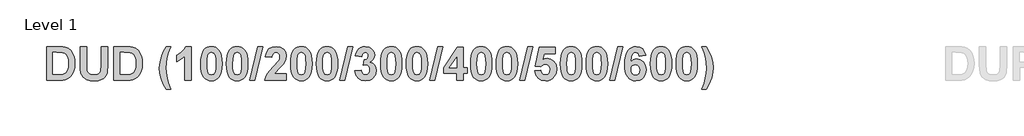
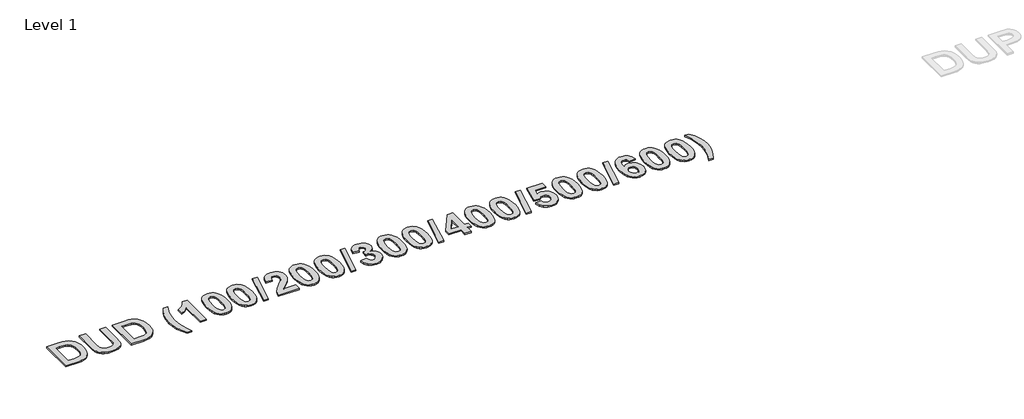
# One storey, part 29 of 42: 1 proxy.
"""IFC4 building model written with IfcOpenShell, lengths in millimetres."""

from ifc_helpers import new_model, si_unit, origin, origin_with_axes, place, context, project, spatial, polyline, outline, extrude, element, save

model = new_model("IFC4")

# Units and contexts
model_context = context("Model", 3, world=origin())
ifc_project = project(units=[si_unit("LENGTHUNIT", "METRE", prefix="MILLI")], contexts=[model_context])

# Site, building, storey
site = spatial("IfcSite", under=ifc_project)
building = spatial("IfcBuilding", under=site)
storey = spatial("IfcBuildingStorey", under=building, Name="Level 1", Elevation=0.0)

# Proxy
placement = place(None, origin())
element("IfcBuildingElementProxy", 1, Name="300mm Arial 2", ObjectType="300mm Arial 2", at=placement, inside=storey, context=model_context, shape_type="SweptSolid", body=[
    extrude(outline(polyline([(13206.8730509, 14842.68636), (13301.3204272, 14842.68636), (13329.4711857, 14841.4686025), (13350.0307284, 14837.8153299), (13370.9382018, 14828.6188883), (13388.6194086, 14814.314191), (13402.7659555, 14795.5575621), (13413.0694494, 14773.0053252), (13419.3559249, 14745.700671), (13421.4514168, 14712.6867899), (13419.4903527, 14683.397349), (13413.6071605, 14658.4095971), (13401.9356662, 14633.2320648), (13386.1522634, 14613.3683835), (13370.3688606, 14601.7601494), (13349.840948, 14592.9986212), (13329.8665615, 14588.9657878), (13304.103873, 14587.62151), (13206.8730509, 14587.62151), (13206.8730509, 14842.68636)]), holes=[polyline([(13255.4568319, 14798.1512275), (13255.4568319, 14632.1566425), (13296.8289578, 14632.1566425), (13330.3568275, 14634.5605275), (13352.719284, 14644.9668192), (13360.7928582, 14654.7009719), (13367.2374841, 14669.1638194), (13371.4600979, 14689.0591308), (13372.8676358, 14715.0906749), (13371.4600979, 14740.7584732), (13367.2374841, 14759.6890675), (13360.4923726, 14773.5430363), (13351.5173415, 14783.980958), (13340.0593502, 14791.2875032), (13325.8653582, 14795.7473425), (13280.3813237, 14798.1512275), (13255.4568319, 14798.1512275)])]), origin_with_axes(), (0.0, 0.0, 1.0), 10.0),
    extrude(outline(polyline([(13461.9379009, 14842.68636), (13510.5216819, 14842.68636), (13510.5216819, 14705.0955741), (13512.6092662, 14662.5847658), (13518.6980538, 14648.5489241), (13529.7527618, 14637.5653838), (13545.7733901, 14630.4723415), (13566.7599387, 14628.1079941), (13587.7227648, 14630.3379138), (13602.7865836, 14637.0276727), (13612.4891062, 14646.9674208), (13617.3680439, 14658.9473082), (13619.835189, 14702.1223479), (13619.835189, 14842.68636), (13668.4189699, 14842.68636), (13668.4189699, 14708.891182), (13664.1805411, 14644.0495473), (13658.1550136, 14626.5976585), (13648.5552887, 14612.0715508), (13635.2469385, 14600.3447039), (13618.0955354, 14591.2905976), (13596.1047322, 14585.5022956), (13568.2781819, 14583.5728616), (13535.6833991, 14585.676261), (13512.039925, 14591.9864591), (13494.8806144, 14601.6652592), (13481.7383221, 14613.8744646), (13472.5023429, 14627.6809882), (13467.0619716, 14642.1517433), (13463.2189186, 14669.2587096), (13461.9379009, 14706.8035977), (13461.9379009, 14842.68636)])), origin_with_axes(), (0.0, 0.0, 1.0), 10.0),
    extrude(outline(polyline([(13717.0027509, 14842.68636), (13811.4501271, 14842.68636), (13839.6008856, 14841.4686025), (13860.1604284, 14837.8153299), (13881.0679018, 14828.6188883), (13898.7491085, 14814.314191), (13912.8956554, 14795.5575621), (13923.1991493, 14773.0053252), (13929.4856249, 14745.700671), (13931.5811168, 14712.6867899), (13929.6200527, 14683.397349), (13923.7368605, 14658.4095971), (13912.0653662, 14633.2320648), (13896.2819634, 14613.3683835), (13880.4985606, 14601.7601494), (13859.970648, 14592.9986212), (13839.9962615, 14588.9657878), (13814.2335729, 14587.62151), (13717.0027509, 14587.62151), (13717.0027509, 14842.68636)]), holes=[polyline([(13765.5865318, 14798.1512275), (13765.5865318, 14632.1566425), (13806.9586578, 14632.1566425), (13840.4865275, 14634.5605275), (13862.8489839, 14644.9668192), (13870.9225582, 14654.7009719), (13877.3671841, 14669.1638194), (13881.5897979, 14689.0591308), (13882.9973358, 14715.0906749), (13881.5897979, 14740.7584732), (13877.3671841, 14759.6890675), (13870.6220726, 14773.5430363), (13861.6470414, 14783.980958), (13850.1890501, 14791.2875032), (13835.9950581, 14795.7473425), (13790.5110236, 14798.1512275), (13765.5865318, 14798.1512275)])]), origin_with_axes(), (0.0, 0.0, 1.0), 10.0),
    extrude(outline(polyline([(14146.1594826, 14518.794487), (14113.7702953, 14518.794487), (14091.0994457, 14558.4664969), (14074.5806439, 14599.6725651), (14064.4985604, 14640.9735234), (14061.137866, 14680.9302039), (14065.2497745, 14728.3278574), (14077.5855001, 14773.1002154), (14093.7800938, 14809.3799008), (14113.7702953, 14842.68636), (14146.1594826, 14842.68636), (14128.5968886, 14795.4468568), (14117.5342731, 14755.8301995), (14111.6748035, 14718.9495429), (14109.7216469, 14679.9180418), (14114.4028966, 14623.2685941), (14127.2447033, 14568.2006497), (14146.1594826, 14518.794487)])), origin_with_axes(), (0.0, 0.0, 1.0), 10.0),
    extrude(outline(polyline([(14300.0081223, 14587.62151), (14251.4243414, 14587.62151), (14251.4243414, 14769.9372088), (14223.3684731, 14746.0565092), (14190.6946152, 14729.3242045), (14190.6946152, 14777.9079854), (14210.1629206, 14786.9937218), (14231.2443594, 14801.7254249), (14249.7005028, 14820.7430019), (14261.2929219, 14842.68636), (14300.0081223, 14842.68636), (14300.0081223, 14587.62151)])), origin_with_axes(), (0.0, 0.0, 1.0), 10.0),
    extrude(outline(polyline([(14453.856762, 14842.68636), (14470.9883963, 14841.0415966), (14486.135244, 14836.1073063), (14499.2973051, 14827.8834892), (14510.4745796, 14816.3701453), (14521.129958, 14798.2421639), (14528.7409426, 14774.9822043), (14533.3075333, 14746.5902666), (14534.8297302, 14713.0663507), (14533.2996258, 14679.5740648), (14528.7093125, 14651.150497), (14521.0587904, 14627.7956472), (14510.3480594, 14609.5095155), (14499.2261375, 14598.1622294), (14486.103614, 14590.0570251), (14470.9804888, 14585.1939025), (14453.856762, 14583.5728616), (14436.5491854, 14585.3520528), (14421.0010312, 14590.6896264), (14407.2122994, 14599.5855824), (14395.1829901, 14612.0399207), (14385.4270917, 14629.0608499), (14378.4585928, 14651.6565781), (14374.2774935, 14679.8271054), (14372.8837937, 14713.5724317), (14374.4138982, 14746.8986597), (14379.0042114, 14775.2036148), (14386.6547336, 14798.4872969), (14397.3654646, 14816.7497061), (14408.4873865, 14828.0969922), (14421.60991, 14836.2021965), (14436.7330351, 14841.0653191), (14453.856762, 14842.68636)]), holes=[polyline([(14453.856762, 14798.1512275), (14437.6621683, 14792.8057464), (14431.3361552, 14785.3331433), (14426.6549055, 14773.6062965), (14422.7644074, 14749.4567413), (14421.4675747, 14713.0663507), (14422.6220721, 14677.1583186), (14426.0855643, 14654.5823591), (14431.3124326, 14641.3293616), (14437.7570585, 14633.3902151), (14453.856762, 14628.1079941), (14470.0513556, 14633.4534752), (14476.3773688, 14640.9260783), (14481.0586185, 14652.6529251), (14484.9491166, 14676.6759601), (14486.2459493, 14713.0663507), (14485.0914519, 14748.9348452), (14481.6279597, 14771.5187121), (14476.4010913, 14784.8112472), (14469.9564654, 14792.8057464), (14453.856762, 14798.1512275)])]), origin_with_axes(), (0.0, 0.0, 1.0), 10.0),
    extrude(outline(polyline([(14648.1918858, 14842.68636), (14665.3235201, 14841.0415966), (14680.4703678, 14836.1073063), (14693.6324289, 14827.8834892), (14704.8097034, 14816.3701453), (14715.4650818, 14798.2421639), (14723.0760664, 14774.9822043), (14727.6426571, 14746.5902666), (14729.164854, 14713.0663507), (14727.6347496, 14679.5740648), (14723.0444363, 14651.150497), (14715.3939142, 14627.7956472), (14704.6831832, 14609.5095155), (14693.5612613, 14598.1622294), (14680.4387378, 14590.0570251), (14665.3156126, 14585.1939025), (14648.1918858, 14583.5728616), (14630.8843092, 14585.3520528), (14615.336155, 14590.6896264), (14601.5474232, 14599.5855824), (14589.5181139, 14612.0399207), (14579.7622155, 14629.0608499), (14572.7937166, 14651.6565781), (14568.6126173, 14679.8271054), (14567.2189175, 14713.5724317), (14568.749022, 14746.8986597), (14573.3393352, 14775.2036148), (14580.9898574, 14798.4872969), (14591.7005884, 14816.7497061), (14602.8225103, 14828.0969922), (14615.9450338, 14836.2021965), (14631.0681589, 14841.0653191), (14648.1918858, 14842.68636)]), holes=[polyline([(14648.1918858, 14798.1512275), (14631.9972921, 14792.8057464), (14625.671279, 14785.3331433), (14620.9900293, 14773.6062965), (14617.0995312, 14749.4567413), (14615.8026985, 14713.0663507), (14616.9571959, 14677.1583186), (14620.4206881, 14654.5823591), (14625.6475564, 14641.3293616), (14632.0921823, 14633.3902151), (14648.1918858, 14628.1079941), (14664.3864794, 14633.4534752), (14670.7124926, 14640.9260783), (14675.3937423, 14652.6529251), (14679.2842404, 14676.6759601), (14680.5810731, 14713.0663507), (14679.4265757, 14748.9348452), (14675.9630835, 14771.5187121), (14670.7362151, 14784.8112472), (14664.2915892, 14792.8057464), (14648.1918858, 14798.1512275)])]), origin_with_axes(), (0.0, 0.0, 1.0), 10.0),
    extrude(outline(polyline([(14744.4738058, 14587.62151), (14805.203532, 14842.68636), (14842.5270096, 14842.68636), (14781.7972834, 14587.62151), (14744.4738058, 14587.62151)])), origin_with_axes(), (0.0, 0.0, 1.0), 10.0),
    extrude(outline(polyline([(15020.6675397, 14636.205291), (15020.6675397, 14587.62151), (14858.7216032, 14587.62151), (14863.893119, 14612.1269034), (14874.2203354, 14635.2880191), (14893.4039703, 14661.469806), (14925.1447412, 14695.0372132), (14962.7212593, 14735.7767379), (14969.7431339, 14750.4847184), (14972.0837588, 14765.0029186), (14970.1147872, 14779.1494655), (14964.2078724, 14789.5794797), (14954.8374654, 14796.0082905), (14942.4780173, 14798.1512275), (14930.2055518, 14796.0399206), (14920.716532, 14789.7059999), (14914.3272588, 14778.4852341), (14911.3540326, 14761.7133918), (14862.7702516, 14766.141601), (14871.3736295, 14801.2905115), (14878.9964754, 14814.5296709), (14888.8334258, 14824.878633), (14913.457432, 14838.2344283), (14943.5534395, 14842.68636), (14975.6895863, 14837.6967171), (15000.107997, 14822.7277885), (15015.5276541, 14800.3416095), (15020.6675397, 14773.1002154), (15015.037388, 14740.9640686), (14997.198031, 14709.0177023), (14966.9913182, 14677.134596), (14939.2517506, 14649.4899186), (14930.1422916, 14636.205291), (15020.6675397, 14636.205291)])), origin_with_axes(), (0.0, 0.0, 1.0), 10.0),
    extrude(outline(polyline([(15134.0296953, 14842.68636), (15151.1613296, 14841.0415966), (15166.3081774, 14836.1073063), (15179.4702385, 14827.8834892), (15190.6475129, 14816.3701453), (15201.3028913, 14798.2421639), (15208.9138759, 14774.9822043), (15213.4804666, 14746.5902666), (15215.0026635, 14713.0663507), (15213.4725591, 14679.5740648), (15208.8822458, 14651.150497), (15201.2317237, 14627.7956472), (15190.5209927, 14609.5095155), (15179.3990708, 14598.1622294), (15166.2765473, 14590.0570251), (15151.1534221, 14585.1939025), (15134.0296953, 14583.5728616), (15116.7221187, 14585.3520528), (15101.1739645, 14590.6896264), (15087.3852327, 14599.5855824), (15075.3559234, 14612.0399207), (15065.600025, 14629.0608499), (15058.6315261, 14651.6565781), (15054.4504268, 14679.8271054), (15053.056727, 14713.5724317), (15054.5868315, 14746.8986597), (15059.1771447, 14775.2036148), (15066.8276669, 14798.4872969), (15077.5383979, 14816.7497061), (15088.6603198, 14828.0969922), (15101.7828433, 14836.2021965), (15116.9059685, 14841.0653191), (15134.0296953, 14842.68636)]), holes=[polyline([(15134.0296953, 14798.1512275), (15117.8351016, 14792.8057464), (15111.5090885, 14785.3331433), (15106.8278388, 14773.6062965), (15102.9373407, 14749.4567413), (15101.640508, 14713.0663507), (15102.7950054, 14677.1583186), (15106.2584976, 14654.5823591), (15111.4853659, 14641.3293616), (15117.9299918, 14633.3902151), (15134.0296953, 14628.1079941), (15150.2242889, 14633.4534752), (15156.5503021, 14640.9260783), (15161.2315518, 14652.6529251), (15165.1220499, 14676.6759601), (15166.4188826, 14713.0663507), (15165.2643852, 14748.9348452), (15161.800893, 14771.5187121), (15156.5740246, 14784.8112472), (15150.1293987, 14792.8057464), (15134.0296953, 14798.1512275)])]), origin_with_axes(), (0.0, 0.0, 1.0), 10.0),
    extrude(outline(polyline([(15328.3648191, 14842.68636), (15345.4964534, 14841.0415966), (15360.6433012, 14836.1073063), (15373.8053623, 14827.8834892), (15384.9826367, 14816.3701453), (15395.6380151, 14798.2421639), (15403.2489997, 14774.9822043), (15407.8155904, 14746.5902666), (15409.3377873, 14713.0663507), (15407.8076829, 14679.5740648), (15403.2173696, 14651.150497), (15395.5668475, 14627.7956472), (15384.8561165, 14609.5095155), (15373.7341946, 14598.1622294), (15360.6116711, 14590.0570251), (15345.4885459, 14585.1939025), (15328.3648191, 14583.5728616), (15311.0572425, 14585.3520528), (15295.5090883, 14590.6896264), (15281.7203565, 14599.5855824), (15269.6910472, 14612.0399207), (15259.9351488, 14629.0608499), (15252.9666499, 14651.6565781), (15248.7855506, 14679.8271054), (15247.3918508, 14713.5724317), (15248.9219553, 14746.8986597), (15253.5122686, 14775.2036148), (15261.1627907, 14798.4872969), (15271.8735217, 14816.7497061), (15282.9954436, 14828.0969922), (15296.1179671, 14836.2021965), (15311.2410923, 14841.0653191), (15328.3648191, 14842.68636)]), holes=[polyline([(15328.3648191, 14798.1512275), (15312.1702254, 14792.8057464), (15305.8442123, 14785.3331433), (15301.1629626, 14773.6062965), (15297.2724645, 14749.4567413), (15295.9756318, 14713.0663507), (15297.1301292, 14677.1583186), (15300.5936214, 14654.5823591), (15305.8204897, 14641.3293616), (15312.2651156, 14633.3902151), (15328.3648191, 14628.1079941), (15344.5594127, 14633.4534752), (15350.8854259, 14640.9260783), (15355.5666756, 14652.6529251), (15359.4571737, 14676.6759601), (15360.7540064, 14713.0663507), (15359.599509, 14748.9348452), (15356.1360168, 14771.5187121), (15350.9091484, 14784.8112472), (15344.4645225, 14792.8057464), (15328.3648191, 14798.1512275)])]), origin_with_axes(), (0.0, 0.0, 1.0), 10.0),
    extrude(outline(polyline([(15424.6467391, 14587.62151), (15485.3764653, 14842.68636), (15522.6999429, 14842.68636), (15461.9702167, 14587.62151), (15424.6467391, 14587.62151)])), origin_with_axes(), (0.0, 0.0, 1.0), 10.0),
    extrude(outline(polyline([(15538.8945365, 14658.9156782), (15587.4783175, 14664.5458298), (15591.2264803, 14648.9205774), (15598.4223202, 14637.4704936), (15608.2750857, 14630.448619), (15619.994025, 14628.1079941), (15632.5669762, 14630.7886422), (15642.9574528, 14638.8305864), (15649.9318823, 14651.4114451), (15652.2566921, 14667.7088364), (15650.1295702, 14683.1284935), (15643.7482044, 14694.9739531), (15634.2987223, 14702.5177237), (15622.9672512, 14705.032314), (15603.6729111, 14701.4264865), (15607.9113399, 14741.4701497), (15621.7415862, 14743.2098033), (15631.8552997, 14749.4409262), (15638.0468851, 14759.3095068), (15640.1107468, 14771.961533), (15638.5687811, 14782.7078479), (15633.942884, 14791.0344627), (15626.7549516, 14796.3720363), (15617.5268799, 14798.1512275), (15608.1406579, 14796.0873657), (15600.225234, 14789.8957803), (15594.4606545, 14779.7346217), (15591.5269659, 14765.7620402), (15542.9431849, 14773.0369553), (15548.502169, 14794.7747179), (15556.3227027, 14811.6572655), (15567.045295, 14824.5702399), (15581.3104547, 14834.3992828), (15598.3037075, 14840.6145907), (15617.2105793, 14842.68636), (15647.860113, 14836.9455031), (15660.646567, 14829.7694319), (15671.7408126, 14819.7229323), (15684.456099, 14799.7011007), (15688.6945278, 14777.212124), (15686.4211168, 14761.2666171), (15679.6008839, 14747.0212262), (15668.233829, 14734.4759514), (15652.3199522, 14723.6307926), (15672.1836335, 14716.0791144), (15687.6191056, 14702.7865793), (15697.5351312, 14684.9234997), (15700.840473, 14663.660188), (15694.9810034, 14632.8920416), (15677.4025943, 14607.0107403), (15664.9660479, 14596.7566684), (15651.0942872, 14589.4323313), (15619.0451231, 14583.5728616), (15588.7830577, 14588.7839149), (15564.166959, 14604.4170749), (15546.9522958, 14628.4638324), (15538.8945365, 14658.9156782)])), origin_with_axes(), (0.0, 0.0, 1.0), 10.0),
    extrude(outline(polyline([(15814.2026286, 14842.68636), (15831.3342629, 14841.0415966), (15846.4811107, 14836.1073063), (15859.6431718, 14827.8834892), (15870.8204462, 14816.3701453), (15881.4758246, 14798.2421639), (15889.0868092, 14774.9822043), (15893.6533999, 14746.5902666), (15895.1755968, 14713.0663507), (15893.6454924, 14679.5740648), (15889.0551791, 14651.150497), (15881.404657, 14627.7956472), (15870.693926, 14609.5095155), (15859.5720041, 14598.1622294), (15846.4494806, 14590.0570251), (15831.3263554, 14585.1939025), (15814.2026286, 14583.5728616), (15796.895052, 14585.3520528), (15781.3468978, 14590.6896264), (15767.558166, 14599.5855824), (15755.5288567, 14612.0399207), (15745.7729583, 14629.0608499), (15738.8044594, 14651.6565781), (15734.6233601, 14679.8271054), (15733.2296603, 14713.5724317), (15734.7597648, 14746.8986597), (15739.3500781, 14775.2036148), (15747.0006002, 14798.4872969), (15757.7113312, 14816.7497061), (15768.8332531, 14828.0969922), (15781.9557766, 14836.2021965), (15797.0789018, 14841.0653191), (15814.2026286, 14842.68636)]), holes=[polyline([(15814.2026286, 14798.1512275), (15798.0080349, 14792.8057464), (15791.6820218, 14785.3331433), (15787.0007721, 14773.6062965), (15783.110274, 14749.4567413), (15781.8134413, 14713.0663507), (15782.9679387, 14677.1583186), (15786.4314309, 14654.5823591), (15791.6582992, 14641.3293616), (15798.1029251, 14633.3902151), (15814.2026286, 14628.1079941), (15830.3972222, 14633.4534752), (15836.7232354, 14640.9260783), (15841.4044851, 14652.6529251), (15845.2949832, 14676.6759601), (15846.5918159, 14713.0663507), (15845.4373185, 14748.9348452), (15841.9738263, 14771.5187121), (15836.7469579, 14784.8112472), (15830.302332, 14792.8057464), (15814.2026286, 14798.1512275)])]), origin_with_axes(), (0.0, 0.0, 1.0), 10.0),
    extrude(outline(polyline([(16008.5377524, 14842.68636), (16025.6693867, 14841.0415966), (16040.8162345, 14836.1073063), (16053.9782956, 14827.8834892), (16065.15557, 14816.3701453), (16075.8109484, 14798.2421639), (16083.421933, 14774.9822043), (16087.9885237, 14746.5902666), (16089.5107206, 14713.0663507), (16087.9806162, 14679.5740648), (16083.3903029, 14651.150497), (16075.7397808, 14627.7956472), (16065.0290498, 14609.5095155), (16053.9071279, 14598.1622294), (16040.7846044, 14590.0570251), (16025.6614792, 14585.1939025), (16008.5377524, 14583.5728616), (15991.2301758, 14585.3520528), (15975.6820216, 14590.6896264), (15961.8932898, 14599.5855824), (15949.8639805, 14612.0399207), (15940.1080821, 14629.0608499), (15933.1395832, 14651.6565781), (15928.9584839, 14679.8271054), (15927.5647841, 14713.5724317), (15929.0948886, 14746.8986597), (15933.6852019, 14775.2036148), (15941.335724, 14798.4872969), (15952.046455, 14816.7497061), (15963.1683769, 14828.0969922), (15976.2909004, 14836.2021965), (15991.4140256, 14841.0653191), (16008.5377524, 14842.68636)]), holes=[polyline([(16008.5377524, 14798.1512275), (15992.3431587, 14792.8057464), (15986.0171456, 14785.3331433), (15981.3358959, 14773.6062965), (15977.4453978, 14749.4567413), (15976.1485651, 14713.0663507), (15977.3030625, 14677.1583186), (15980.7665547, 14654.5823591), (15985.993423, 14641.3293616), (15992.4380489, 14633.3902151), (16008.5377524, 14628.1079941), (16024.732346, 14633.4534752), (16031.0583592, 14640.9260783), (16035.7396089, 14652.6529251), (16039.630107, 14676.6759601), (16040.9269397, 14713.0663507), (16039.7724423, 14748.9348452), (16036.3089501, 14771.5187121), (16031.0820817, 14784.8112472), (16024.6374558, 14792.8057464), (16008.5377524, 14798.1512275)])]), origin_with_axes(), (0.0, 0.0, 1.0), 10.0),
    extrude(outline(polyline([(16104.8196724, 14587.62151), (16165.5493986, 14842.68636), (16202.8728762, 14842.68636), (16142.14315, 14587.62151), (16104.8196724, 14587.62151)])), origin_with_axes(), (0.0, 0.0, 1.0), 10.0),
    extrude(outline(polyline([(16308.1377349, 14587.62151), (16308.1377349, 14640.2539394), (16210.970173, 14640.2539394), (16210.970173, 14680.5506431), (16314.5902683, 14838.6377116), (16356.7215159, 14838.6377116), (16356.7215159, 14680.7404235), (16389.1107032, 14680.7404235), (16389.1107032, 14640.2539394), (16356.7215159, 14640.2539394), (16356.7215159, 14587.62151), (16308.1377349, 14587.62151)]), holes=[polyline([(16308.1377349, 14680.7404235), (16308.1377349, 14763.6111957), (16253.8605421, 14680.7404235), (16308.1377349, 14680.7404235)])]), origin_with_axes(), (0.0, 0.0, 1.0), 10.0),
    extrude(outline(polyline([(16494.3755619, 14842.68636), (16511.5071962, 14841.0415966), (16526.654044, 14836.1073063), (16539.8161051, 14827.8834892), (16550.9933795, 14816.3701453), (16561.6487579, 14798.2421639), (16569.2597425, 14774.9822043), (16573.8263332, 14746.5902666), (16575.3485301, 14713.0663507), (16573.8184257, 14679.5740648), (16569.2281124, 14651.150497), (16561.5775903, 14627.7956472), (16550.8668593, 14609.5095155), (16539.7449374, 14598.1622294), (16526.6224139, 14590.0570251), (16511.4992887, 14585.1939025), (16494.3755619, 14583.5728616), (16477.0679853, 14585.3520528), (16461.5198311, 14590.6896264), (16447.7310993, 14599.5855824), (16435.70179, 14612.0399207), (16425.9458916, 14629.0608499), (16418.9773927, 14651.6565781), (16414.7962934, 14679.8271054), (16413.4025936, 14713.5724317), (16414.9326981, 14746.8986597), (16419.5230114, 14775.2036148), (16427.1735335, 14798.4872969), (16437.8842645, 14816.7497061), (16449.0061864, 14828.0969922), (16462.1287099, 14836.2021965), (16477.2518351, 14841.0653191), (16494.3755619, 14842.68636)]), holes=[polyline([(16494.3755619, 14798.1512275), (16478.1809682, 14792.8057464), (16471.8549551, 14785.3331433), (16467.1737054, 14773.6062965), (16463.2832073, 14749.4567413), (16461.9863746, 14713.0663507), (16463.140872, 14677.1583186), (16466.6043642, 14654.5823591), (16471.8312325, 14641.3293616), (16478.2758584, 14633.3902151), (16494.3755619, 14628.1079941), (16510.5701555, 14633.4534752), (16516.8961687, 14640.9260783), (16521.5774184, 14652.6529251), (16525.4679165, 14676.6759601), (16526.7647492, 14713.0663507), (16525.6102518, 14748.9348452), (16522.1467596, 14771.5187121), (16516.9198912, 14784.8112472), (16510.4752653, 14792.8057464), (16494.3755619, 14798.1512275)])]), origin_with_axes(), (0.0, 0.0, 1.0), 10.0),
    extrude(outline(polyline([(16688.7106857, 14842.68636), (16705.84232, 14841.0415966), (16720.9891678, 14836.1073063), (16734.1512289, 14827.8834892), (16745.3285033, 14816.3701453), (16755.9838817, 14798.2421639), (16763.5948663, 14774.9822043), (16768.161457, 14746.5902666), (16769.6836539, 14713.0663507), (16768.1535495, 14679.5740648), (16763.5632362, 14651.150497), (16755.9127141, 14627.7956472), (16745.2019831, 14609.5095155), (16734.0800612, 14598.1622294), (16720.9575377, 14590.0570251), (16705.8344125, 14585.1939025), (16688.7106857, 14583.5728616), (16671.4031091, 14585.3520528), (16655.8549549, 14590.6896264), (16642.0662231, 14599.5855824), (16630.0369138, 14612.0399207), (16620.2810154, 14629.0608499), (16613.3125165, 14651.6565781), (16609.1314172, 14679.8271054), (16607.7377174, 14713.5724317), (16609.2678219, 14746.8986597), (16613.8581352, 14775.2036148), (16621.5086573, 14798.4872969), (16632.2193883, 14816.7497061), (16643.3413102, 14828.0969922), (16656.4638337, 14836.2021965), (16671.5869589, 14841.0653191), (16688.7106857, 14842.68636)]), holes=[polyline([(16688.7106857, 14798.1512275), (16672.516092, 14792.8057464), (16666.1900789, 14785.3331433), (16661.5088292, 14773.6062965), (16657.6183311, 14749.4567413), (16656.3214984, 14713.0663507), (16657.4759958, 14677.1583186), (16660.939488, 14654.5823591), (16666.1663563, 14641.3293616), (16672.6109822, 14633.3902151), (16688.7106857, 14628.1079941), (16704.9052793, 14633.4534752), (16711.2312925, 14640.9260783), (16715.9125422, 14652.6529251), (16719.8030403, 14676.6759601), (16721.099873, 14713.0663507), (16719.9453756, 14748.9348452), (16716.4818834, 14771.5187121), (16711.255015, 14784.8112472), (16704.8103891, 14792.8057464), (16688.7106857, 14798.1512275)])]), origin_with_axes(), (0.0, 0.0, 1.0), 10.0),
    extrude(outline(polyline([(16784.9926058, 14587.62151), (16845.7223319, 14842.68636), (16883.0458095, 14842.68636), (16822.3160833, 14587.62151), (16784.9926058, 14587.62151)])), origin_with_axes(), (0.0, 0.0, 1.0), 10.0),
    extrude(outline(polyline([(16899.2404031, 14659.4217592), (16943.7755357, 14664.5458298), (16947.9190743, 14649.4741035), (16956.1745214, 14637.9133145), (16967.2766745, 14630.5593242), (16979.9603309, 14628.1079941), (16994.1543229, 14630.709567), (17005.991875, 14638.5142858), (17013.9863741, 14651.5537804), (17016.6512071, 14669.8596809), (17014.1761545, 14687.0189915), (17006.7509965, 14699.275642), (16995.3562654, 14706.6296323), (16980.972493, 14709.0809624), (16962.1526039, 14704.0201519), (16945.4202991, 14688.8377203), (16903.2890516, 14695.1004733), (16931.6295904, 14838.6377116), (17053.0890428, 14838.6377116), (17053.0890428, 14790.0539306), (16970.9141321, 14790.0539306), (16961.1088117, 14743.6842543), (16976.5917289, 14751.1331348), (16992.4225768, 14753.6160949), (17020.5417052, 14747.8673305), (17044.042844, 14730.6210371), (17059.9369521, 14704.2020247), (17065.2349881, 14670.9351031), (17060.8225939, 14642.009408), (17047.5854114, 14616.3416097), (17034.3679977, 14602.0052824), (17018.8178666, 14591.7650486), (17000.9350182, 14585.6209084), (16980.7194524, 14583.5728616), (16949.7140805, 14588.7127473), (16925.0189067, 14604.1324043), (16907.8042434, 14628.2345144), (16899.2404031, 14659.4217592)])), origin_with_axes(), (0.0, 0.0, 1.0), 10.0),
    extrude(outline(polyline([(17174.5484952, 14842.68636), (17191.6801295, 14841.0415966), (17206.8269773, 14836.1073063), (17219.9890384, 14827.8834892), (17231.1663128, 14816.3701453), (17241.8216912, 14798.2421639), (17249.4326758, 14774.9822043), (17253.9992665, 14746.5902666), (17255.5214634, 14713.0663507), (17253.991359, 14679.5740648), (17249.4010457, 14651.150497), (17241.7505236, 14627.7956472), (17231.0397926, 14609.5095155), (17219.9178707, 14598.1622294), (17206.7953472, 14590.0570251), (17191.672222, 14585.1939025), (17174.5484952, 14583.5728616), (17157.2409186, 14585.3520528), (17141.6927644, 14590.6896264), (17127.9040327, 14599.5855824), (17115.8747233, 14612.0399207), (17106.1188249, 14629.0608499), (17099.150326, 14651.6565781), (17094.9692267, 14679.8271054), (17093.5755269, 14713.5724317), (17095.1056314, 14746.8986597), (17099.6959447, 14775.2036148), (17107.3464668, 14798.4872969), (17118.0571978, 14816.7497061), (17129.1791197, 14828.0969922), (17142.3016432, 14836.2021965), (17157.4247684, 14841.0653191), (17174.5484952, 14842.68636)]), holes=[polyline([(17174.5484952, 14798.1512275), (17158.3539015, 14792.8057464), (17152.0278884, 14785.3331433), (17147.3466387, 14773.6062965), (17143.4561406, 14749.4567413), (17142.1593079, 14713.0663507), (17143.3138053, 14677.1583186), (17146.7772975, 14654.5823591), (17152.0041659, 14641.3293616), (17158.4487917, 14633.3902151), (17174.5484952, 14628.1079941), (17190.7430888, 14633.4534752), (17197.069102, 14640.9260783), (17201.7503517, 14652.6529251), (17205.6408498, 14676.6759601), (17206.9376825, 14713.0663507), (17205.7831851, 14748.9348452), (17202.3196929, 14771.5187121), (17197.0928245, 14784.8112472), (17190.6481986, 14792.8057464), (17174.5484952, 14798.1512275)])]), origin_with_axes(), (0.0, 0.0, 1.0), 10.0),
    extrude(outline(polyline([(17368.883619, 14842.68636), (17386.0152533, 14841.0415966), (17401.1621011, 14836.1073063), (17414.3241622, 14827.8834892), (17425.5014366, 14816.3701453), (17436.156815, 14798.2421639), (17443.7677996, 14774.9822043), (17448.3343903, 14746.5902666), (17449.8565872, 14713.0663507), (17448.3264828, 14679.5740648), (17443.7361695, 14651.150497), (17436.0856474, 14627.7956472), (17425.3749164, 14609.5095155), (17414.2529945, 14598.1622294), (17401.130471, 14590.0570251), (17386.0073458, 14585.1939025), (17368.883619, 14583.5728616), (17351.5760424, 14585.3520528), (17336.0278882, 14590.6896264), (17322.2391565, 14599.5855824), (17310.2098471, 14612.0399207), (17300.4539487, 14629.0608499), (17293.4854498, 14651.6565781), (17289.3043505, 14679.8271054), (17287.9106507, 14713.5724317), (17289.4407552, 14746.8986597), (17294.0310685, 14775.2036148), (17301.6815906, 14798.4872969), (17312.3923216, 14816.7497061), (17323.5142435, 14828.0969922), (17336.636767, 14836.2021965), (17351.7598922, 14841.0653191), (17368.883619, 14842.68636)]), holes=[polyline([(17368.883619, 14798.1512275), (17352.6890253, 14792.8057464), (17346.3630122, 14785.3331433), (17341.6817625, 14773.6062965), (17337.7912644, 14749.4567413), (17336.4944317, 14713.0663507), (17337.6489291, 14677.1583186), (17341.1124213, 14654.5823591), (17346.3392897, 14641.3293616), (17352.7839155, 14633.3902151), (17368.883619, 14628.1079941), (17385.0782126, 14633.4534752), (17391.4042258, 14640.9260783), (17396.0854755, 14652.6529251), (17399.9759736, 14676.6759601), (17401.2728063, 14713.0663507), (17400.1183089, 14748.9348452), (17396.6548167, 14771.5187121), (17391.4279483, 14784.8112472), (17384.9833225, 14792.8057464), (17368.883619, 14798.1512275)])]), origin_with_axes(), (0.0, 0.0, 1.0), 10.0),
    extrude(outline(polyline([(17465.1655391, 14587.62151), (17525.8952652, 14842.68636), (17563.2187428, 14842.68636), (17502.4890166, 14587.62151), (17465.1655391, 14587.62151)])), origin_with_axes(), (0.0, 0.0, 1.0), 10.0),
    extrude(outline(polyline([(17737.3106245, 14774.9980194), (17688.7268436, 14769.8106886), (17685.7536174, 14782.4073622), (17680.1234657, 14791.2242431), (17672.1210591, 14796.4194814), (17662.0310681, 14798.1512275), (17648.4301399, 14794.790533), (17637.1065763, 14784.7084495), (17628.8036841, 14763.8721437), (17624.2647696, 14728.2487822), (17644.2866012, 14744.2377804), (17668.6733819, 14749.5674465), (17696.4999322, 14743.8740347), (17720.0089786, 14726.7937992), (17736.0216994, 14700.71481), (17741.359273, 14668.0251371), (17735.9030866, 14633.587903), (17729.0828537, 14619.1982), (17719.5345276, 14606.6944396), (17707.8432646, 14596.5787492), (17694.5942208, 14589.3532561), (17663.422791, 14583.5728616), (17645.8918271, 14585.4390355), (17629.9898115, 14591.0375571), (17615.7167444, 14600.3684265), (17603.0726256, 14613.4316436), (17592.7216866, 14630.7451509), (17585.3281587, 14652.8268905), (17580.892042, 14679.6768625), (17579.4133364, 14711.295067), (17580.957279, 14743.7475144), (17585.5891068, 14771.3289317), (17593.3088197, 14794.0393189), (17604.1164178, 14811.878676), (17617.391161, 14825.3570377), (17632.5123093, 14834.984439), (17649.4798627, 14840.7608797), (17668.2938211, 14842.68636), (17693.6136887, 14838.353041), (17714.1574164, 14825.353084), (17729.0235473, 14804.0976798), (17737.3106245, 14774.9980194)]), holes=[polyline([(17627.9971174, 14669.1005593), (17630.6224129, 14651.6803006), (17638.4982992, 14638.7673263), (17649.7427876, 14630.7728272), (17662.473889, 14628.1079941), (17674.3667937, 14630.2904687), (17684.108854, 14636.8378923), (17690.6088325, 14648.3670512), (17692.775492, 14665.4947318), (17690.4427747, 14683.2471062), (17683.4446226, 14695.5116642), (17672.9513483, 14702.6521515), (17660.1332642, 14705.032314), (17647.6947408, 14702.7549492), (17637.3279868, 14695.922855), (17630.3298347, 14684.6625516), (17627.9971174, 14669.1005593)])]), origin_with_axes(), (0.0, 0.0, 1.0), 10.0),
    extrude(outline(polyline([(17854.7214285, 14842.68636), (17871.8530628, 14841.0415966), (17886.9999106, 14836.1073063), (17900.1619717, 14827.8834892), (17911.3392461, 14816.3701453), (17921.9946245, 14798.2421639), (17929.6056091, 14774.9822043), (17934.1721998, 14746.5902666), (17935.6943968, 14713.0663507), (17934.1642923, 14679.5740648), (17929.573979, 14651.150497), (17921.9234569, 14627.7956472), (17911.2127259, 14609.5095155), (17900.090804, 14598.1622294), (17886.9682805, 14590.0570251), (17871.8451553, 14585.1939025), (17854.7214285, 14583.5728616), (17837.4138519, 14585.3520528), (17821.8656977, 14590.6896264), (17808.076966, 14599.5855824), (17796.0476566, 14612.0399207), (17786.2917582, 14629.0608499), (17779.3232593, 14651.6565781), (17775.14216, 14679.8271054), (17773.7484603, 14713.5724317), (17775.2785647, 14746.8986597), (17779.868878, 14775.2036148), (17787.5194001, 14798.4872969), (17798.2301311, 14816.7497061), (17809.352053, 14828.0969922), (17822.4745765, 14836.2021965), (17837.5977017, 14841.0653191), (17854.7214285, 14842.68636)]), holes=[polyline([(17854.7214285, 14798.1512275), (17838.5268349, 14792.8057464), (17832.2008217, 14785.3331433), (17827.519572, 14773.6062965), (17823.6290739, 14749.4567413), (17822.3322412, 14713.0663507), (17823.4867386, 14677.1583186), (17826.9502308, 14654.5823591), (17832.1770992, 14641.3293616), (17838.621725, 14633.3902151), (17854.7214285, 14628.1079941), (17870.9160222, 14633.4534752), (17877.2420353, 14640.9260783), (17881.923285, 14652.6529251), (17885.8137831, 14676.6759601), (17887.1106158, 14713.0663507), (17885.9561184, 14748.9348452), (17882.4926262, 14771.5187121), (17877.2657578, 14784.8112472), (17870.821132, 14792.8057464), (17854.7214285, 14798.1512275)])]), origin_with_axes(), (0.0, 0.0, 1.0), 10.0),
    extrude(outline(polyline([(18049.0565523, 14842.68636), (18066.1881867, 14841.0415966), (18081.3350344, 14836.1073063), (18094.4970955, 14827.8834892), (18105.6743699, 14816.3701453), (18116.3297483, 14798.2421639), (18123.9407329, 14774.9822043), (18128.5073236, 14746.5902666), (18130.0295206, 14713.0663507), (18128.4994161, 14679.5740648), (18123.9091028, 14651.150497), (18116.2585807, 14627.7956472), (18105.5478497, 14609.5095155), (18094.4259278, 14598.1622294), (18081.3034043, 14590.0570251), (18066.1802791, 14585.1939025), (18049.0565523, 14583.5728616), (18031.7489757, 14585.3520528), (18016.2008215, 14590.6896264), (18002.4120898, 14599.5855824), (17990.3827804, 14612.0399207), (17980.626882, 14629.0608499), (17973.6583831, 14651.6565781), (17969.4772838, 14679.8271054), (17968.0835841, 14713.5724317), (17969.6136885, 14746.8986597), (17974.2040018, 14775.2036148), (17981.8545239, 14798.4872969), (17992.5652549, 14816.7497061), (18003.6871768, 14828.0969922), (18016.8097003, 14836.2021965), (18031.9328255, 14841.0653191), (18049.0565523, 14842.68636)]), holes=[polyline([(18049.0565523, 14798.1512275), (18032.8619587, 14792.8057464), (18026.5359455, 14785.3331433), (18021.8546958, 14773.6062965), (18017.9641977, 14749.4567413), (18016.667365, 14713.0663507), (18017.8218624, 14677.1583186), (18021.2853546, 14654.5823591), (18026.512223, 14641.3293616), (18032.9568488, 14633.3902151), (18049.0565523, 14628.1079941), (18065.251146, 14633.4534752), (18071.5771591, 14640.9260783), (18076.2584088, 14652.6529251), (18080.1489069, 14676.6759601), (18081.4457396, 14713.0663507), (18080.2912422, 14748.9348452), (18076.82775, 14771.5187121), (18071.6008816, 14784.8112472), (18065.1562558, 14792.8057464), (18049.0565523, 14798.1512275)])]), origin_with_axes(), (0.0, 0.0, 1.0), 10.0),
    extrude(outline(polyline([(18162.4187079, 14518.794487), (18180.4162152, 14564.7846026), (18190.0950154, 14601.6968893), (18196.7056991, 14641.3926217), (18198.8565436, 14679.9180418), (18196.9112945, 14718.9495429), (18191.0755474, 14755.8301995), (18180.0208394, 14795.4468568), (18162.4187079, 14842.68636), (18194.8078952, 14842.68636), (18217.0042938, 14805.3470674), (18233.6179858, 14765.8253003), (18243.9847398, 14724.9276253), (18247.4403245, 14683.4606092), (18244.6726938, 14646.9595133), (18236.3698015, 14607.9280122), (18219.6533118, 14563.060764), (18194.8078952, 14518.794487), (18162.4187079, 14518.794487)])), origin_with_axes(), (0.0, 0.0, 1.0), 10.0),
])

save(model, "model.ifc")
